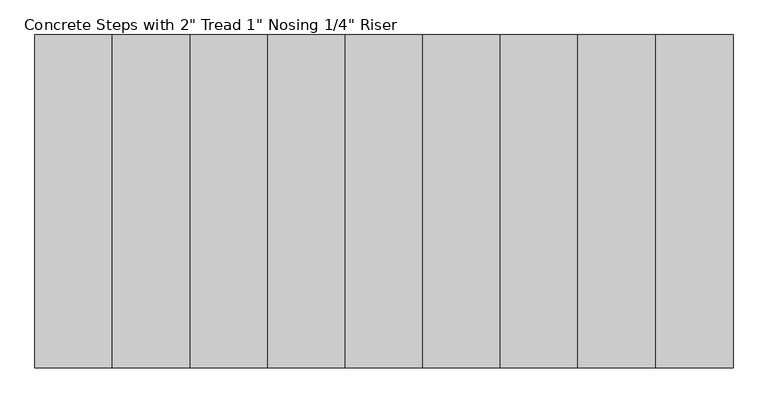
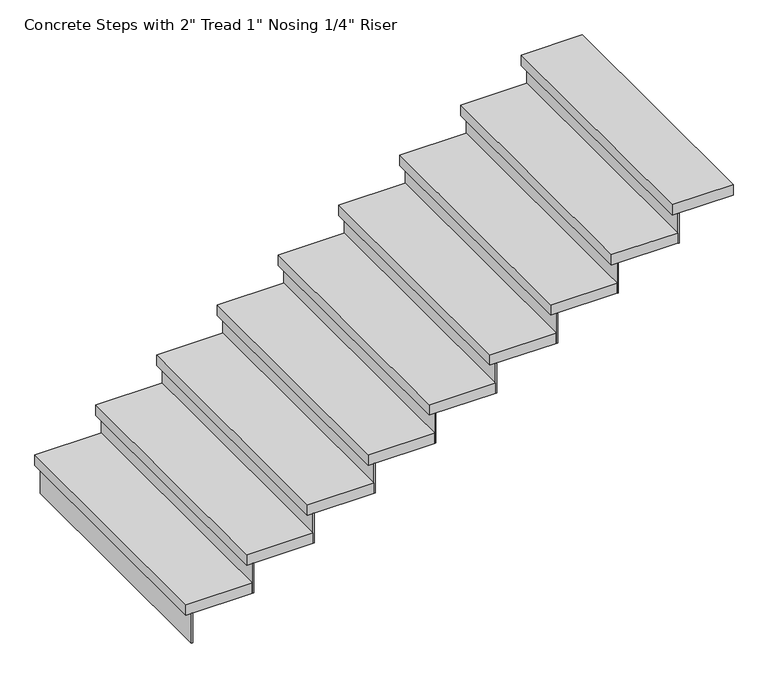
"""IFC4 building model written with IfcOpenShell, lengths in millimetres: stair flight geometry."""

from ifc_helpers import new_model, si_unit, frame, origin, place, context, project, spatial, polyline, outline, extrude, source, transform, mapped, element, save


def stair_flight_947bd2ea(model_context):
    return source(origin(), model_context, "Body", "SweptSolid", [
        extrude(outline(polyline([(-14833.3313244, -3862.1362112), (-14839.6813244, -3862.1362112), (-14839.6813244, -2661.1276112), (-14833.3313244, -2661.1276112), (-14833.3313244, -3862.1362112)])), frame((0.0, 0.0, 1690.9142857), z_axis=(0.0, 0.0, 1.0), x_axis=(1.0, 0.0, 0.0)), (0.0, 0.0, 1.0), 145.1428571),
        extrude(outline(polyline([(-14560.2813244, -2661.1276112), (-14560.2813244, -3862.1362112), (-14865.0813244, -3862.1362112), (-14865.0813244, -2661.1276112), (-14560.2813244, -2661.1276112)])), frame((0.0, 0.0, 1836.0571429), z_axis=(0.0, 0.0, 1.0), x_axis=(1.0, 0.0, 0.0)), (0.0, 0.0, 1.0), 50.8),
        extrude(outline(polyline([(-14553.9313244, -3862.1362112), (-14560.2813244, -3862.1362112), (-14560.2813244, -2661.1276112), (-14553.9313244, -2661.1276112), (-14553.9313244, -3862.1362112)])), frame((0.0, 0.0, 1836.0571429), z_axis=(0.0, 0.0, 1.0), x_axis=(1.0, 0.0, 0.0)), (0.0, 0.0, 1.0), 145.1428571),
        extrude(outline(polyline([(-14280.8813244, -2661.1276112), (-14280.8813244, -3862.1362112), (-14585.6813244, -3862.1362112), (-14585.6813244, -2661.1276112), (-14280.8813244, -2661.1276112)])), frame((0.0, 0.0, 1981.2), z_axis=(0.0, 0.0, 1.0), x_axis=(1.0, 0.0, 0.0)), (0.0, 0.0, 1.0), 50.8),
        extrude(outline(polyline([(-14274.5313244, -3862.1362112), (-14280.8813244, -3862.1362112), (-14280.8813244, -2661.1276112), (-14274.5313244, -2661.1276112), (-14274.5313244, -3862.1362112)])), frame((0.0, 0.0, 1981.2), z_axis=(0.0, 0.0, 1.0), x_axis=(1.0, 0.0, 0.0)), (0.0, 0.0, 1.0), 145.1428571),
        extrude(outline(polyline([(-14001.4813244, -2661.1276112), (-14001.4813244, -3862.1362112), (-14306.2813244, -3862.1362112), (-14306.2813244, -2661.1276112), (-14001.4813244, -2661.1276112)])), frame((0.0, 0.0, 2126.3428571), z_axis=(0.0, 0.0, 1.0), x_axis=(1.0, 0.0, 0.0)), (0.0, 0.0, 1.0), 50.8),
        extrude(outline(polyline([(-13995.1313244, -3862.1362112), (-14001.4813244, -3862.1362112), (-14001.4813244, -2661.1276112), (-13995.1313244, -2661.1276112), (-13995.1313244, -3862.1362112)])), frame((0.0, 0.0, 2126.3428571), z_axis=(0.0, 0.0, 1.0), x_axis=(1.0, 0.0, 0.0)), (0.0, 0.0, 1.0), 145.1428571),
        extrude(outline(polyline([(-13722.0813244, -2661.1276112), (-13722.0813244, -3862.1362112), (-14026.8813244, -3862.1362112), (-14026.8813244, -2661.1276112), (-13722.0813244, -2661.1276112)])), frame((0.0, 0.0, 2271.4857143), z_axis=(0.0, 0.0, 1.0), x_axis=(1.0, 0.0, 0.0)), (0.0, 0.0, 1.0), 50.8),
        extrude(outline(polyline([(-13715.7313244, -3862.1362112), (-13722.0813244, -3862.1362112), (-13722.0813244, -2661.1276112), (-13715.7313244, -2661.1276112), (-13715.7313244, -3862.1362112)])), frame((0.0, 0.0, 2271.4857143), z_axis=(0.0, 0.0, 1.0), x_axis=(1.0, 0.0, 0.0)), (0.0, 0.0, 1.0), 145.1428571),
        extrude(outline(polyline([(-13442.6813244, -2661.1276112), (-13442.6813244, -3862.1362112), (-13747.4813244, -3862.1362112), (-13747.4813244, -2661.1276112), (-13442.6813244, -2661.1276112)])), frame((0.0, 0.0, 2416.6285714), z_axis=(0.0, 0.0, 1.0), x_axis=(1.0, 0.0, 0.0)), (0.0, 0.0, 1.0), 50.8),
        extrude(outline(polyline([(-13436.3313244, -3862.1362112), (-13442.6813244, -3862.1362112), (-13442.6813244, -2661.1276112), (-13436.3313244, -2661.1276112), (-13436.3313244, -3862.1362112)])), frame((0.0, 0.0, 2416.6285714), z_axis=(0.0, 0.0, 1.0), x_axis=(1.0, 0.0, 0.0)), (0.0, 0.0, 1.0), 145.1428571),
        extrude(outline(polyline([(-13163.2813244, -2661.1276112), (-13163.2813244, -3862.1362112), (-13468.0813244, -3862.1362112), (-13468.0813244, -2661.1276112), (-13163.2813244, -2661.1276112)])), frame((0.0, 0.0, 2561.7714286), z_axis=(0.0, 0.0, 1.0), x_axis=(1.0, 0.0, 0.0)), (0.0, 0.0, 1.0), 50.8),
        extrude(outline(polyline([(-13156.9313244, -3862.1362112), (-13163.2813244, -3862.1362112), (-13163.2813244, -2661.1276112), (-13156.9313244, -2661.1276112), (-13156.9313244, -3862.1362112)])), frame((0.0, 0.0, 2561.7714286), z_axis=(0.0, 0.0, 1.0), x_axis=(1.0, 0.0, 0.0)), (0.0, 0.0, 1.0), 145.1428571),
        extrude(outline(polyline([(-12883.8813244, -2661.1276112), (-12883.8813244, -3862.1362112), (-13188.6813244, -3862.1362112), (-13188.6813244, -2661.1276112), (-12883.8813244, -2661.1276112)])), frame((0.0, 0.0, 2706.9142857), z_axis=(0.0, 0.0, 1.0), x_axis=(1.0, 0.0, 0.0)), (0.0, 0.0, 1.0), 50.8),
        extrude(outline(polyline([(-12877.5313244, -3862.1362112), (-12883.8813244, -3862.1362112), (-12883.8813244, -2661.1276112), (-12877.5313244, -2661.1276112), (-12877.5313244, -3862.1362112)])), frame((0.0, 0.0, 2706.9142857), z_axis=(0.0, 0.0, 1.0), x_axis=(1.0, 0.0, 0.0)), (0.0, 0.0, 1.0), 145.1428571),
        extrude(outline(polyline([(-12604.4813244, -2661.1276112), (-12604.4813244, -3862.1362112), (-12909.2813244, -3862.1362112), (-12909.2813244, -2661.1276112), (-12604.4813244, -2661.1276112)])), frame((0.0, 0.0, 2852.0571429), z_axis=(0.0, 0.0, 1.0), x_axis=(1.0, 0.0, 0.0)), (0.0, 0.0, 1.0), 50.8),
        extrude(outline(polyline([(-12598.1313244, -3862.1362112), (-12604.4813244, -3862.1362112), (-12604.4813244, -2661.1276112), (-12598.1313244, -2661.1276112), (-12598.1313244, -3862.1362112)])), frame((0.0, 0.0, 2852.0571429), z_axis=(0.0, 0.0, 1.0), x_axis=(1.0, 0.0, 0.0)), (0.0, 0.0, 1.0), 145.1428571),
        extrude(outline(polyline([(-12350.4813244, -2661.1276112), (-12350.4813244, -3862.1362112), (-12629.8813244, -3862.1362112), (-12629.8813244, -2661.1276112), (-12350.4813244, -2661.1276112)])), frame((0.0, 0.0, 2997.2), z_axis=(0.0, 0.0, 1.0), x_axis=(1.0, 0.0, 0.0)), (0.0, 0.0, 1.0), 50.8),
    ])


if __name__ == "__main__":
    model = new_model("IFC4")
    model_context = context("Model", 3, world=origin())
    ifc_project = project(units=[si_unit("LENGTHUNIT", "METRE", prefix="MILLI")], contexts=[model_context])
    site = spatial("IfcSite", under=ifc_project)
    building = spatial("IfcBuilding", under=site)
    placement = place(None, origin())
    stair_flight_shape = stair_flight_947bd2ea(model_context)
    element("IfcStairFlight", 1, ObjectType="Concrete Steps with 2\" Tread 1\" Nosing 1/4\" Riser", at=placement, inside=building, context=model_context, shape_type="MappedRepresentation", body=[
        mapped(stair_flight_shape, transform((0.0, 0.0, 0.0), x_axis=(1.0, 0.0, 0.0), y_axis=(0.0, 1.0, 0.0), z_axis=(0.0, 0.0, 1.0))),
    ])
    save(model, "model.ifc")
